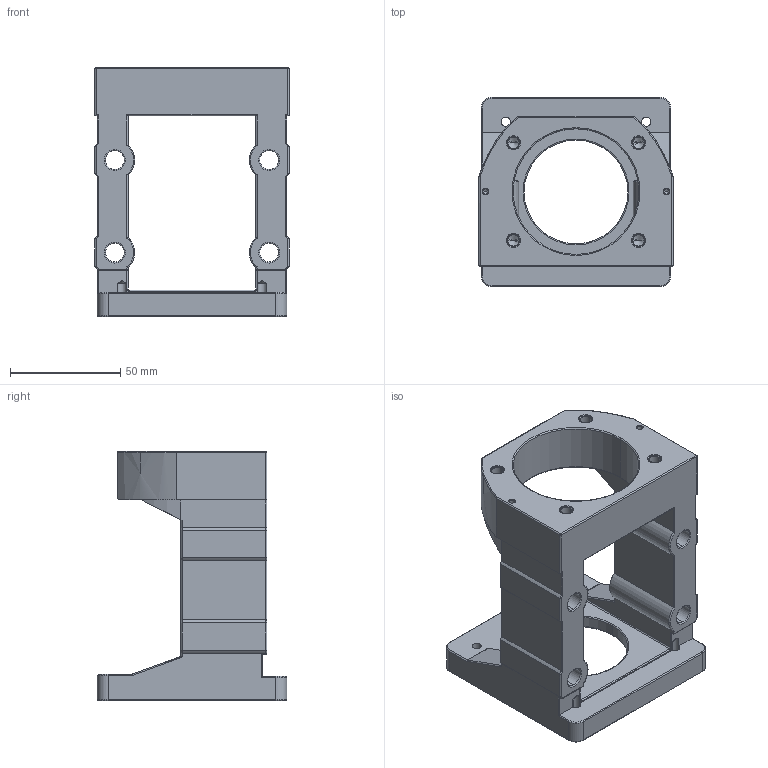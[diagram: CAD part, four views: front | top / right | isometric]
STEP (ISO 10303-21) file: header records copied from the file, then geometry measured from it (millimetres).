
FILE_DESCRIPTION (( 'STEP AP203' ), '1' );
FILE_NAME ('MBA20-EP.STEP', '2019-01-02T03:40:30', ( '' ), ( '' ), 'SwSTEP 2.0', 'SolidWorks 2018', '' );
FILE_SCHEMA (( 'CONFIG_CONTROL_DESIGN' ));
Length unit declared in the file: millimetre
Products named in the file (1): MBA20-EP
Bounding box: 88 x 86 x 113 mm (x, y, z)
Volume: 206029.3 mm3; surface area: 54440.1 mm2
Topology: 1 solids, 1 shells, 289 faces, 703 edges, 404 vertices
Faces by surface type: cylinder 113, plane 62, torus 57, cone 53, bspline 2, sphere 2
Entity records: 8570 total; most frequent: CARTESIAN_POINT 1762, DIRECTION 1496, ORIENTED_EDGE 1370, EDGE_CURVE 685, AXIS2_PLACEMENT_3D 598, VERTEX_POINT 404, EDGE_LOOP 317, CIRCLE 310
